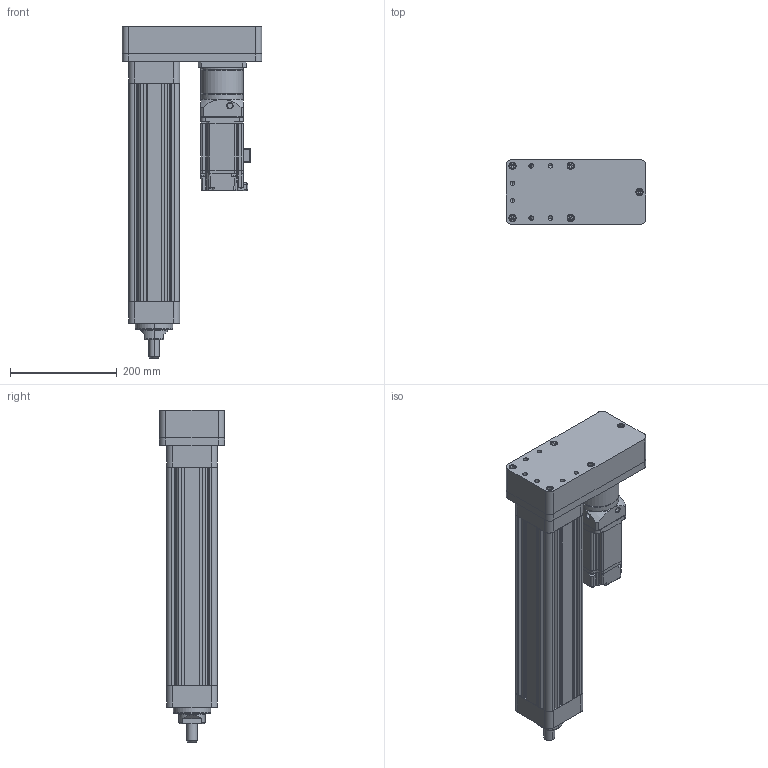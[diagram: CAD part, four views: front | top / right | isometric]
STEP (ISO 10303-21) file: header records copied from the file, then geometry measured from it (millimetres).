
FILE_DESCRIPTION (( 'STEP AP203' ), '1' );
FILE_NAME ('JXE046 TEB80-C05-S250-D-C.STEP', '2020-02-18T04:59:02', ( 'User' ), ( 'china' ), 'SwSTEP 2.0', 'SolidWorks 2012', '' );
FILE_SCHEMA (( 'CONFIG_CONTROL_DESIGN' ));
Length unit declared in the file: millimetre
Products named in the file (11): JXE046 TEB80-C05-S250-D-C; FRAME_F807ES; 80ZDF7-750T3; cy80-23假蚾蹟隊; PART-8009; 綴傷裔; 活塞杆螺柱; GZE066-09 蛌諉啣; GZE066-03  詰芠; GZE066-02 ヶ傷裔; GZE066-01 活塞杆
Assembly tree (14 placements, depth 2):
  JXE046 TEB80-C05-S250-D-C
    GZE066-01 活塞杆
    GZE066-02 ヶ傷裔
    GZE066-03  詰芠
    GZE066-09 蛌諉啣
    活塞杆螺柱  x2
    綴傷裔
    PART-8009
    cy80-23假蚾蹟隊  x4
    80ZDF7-750T3
    FRAME_F807ES
Bounding box: 262 x 122 x 622.5 mm (x, y, z)
Volume: 4581917.3 mm3; surface area: 1086685.9 mm2
Topology: 25 solids, 25 shells, 1633 faces, 4227 edges, 2682 vertices
Faces by surface type: plane 842, cylinder 510, cone 147, bspline 104, torus 26, sphere 4
Entity records: 56211 total; most frequent: CARTESIAN_POINT 18384, ORIENTED_EDGE 7966, DIRECTION 7002, EDGE_CURVE 3983, VERTEX_POINT 2561, AXIS2_PLACEMENT_3D 2351, LINE 2300, VECTOR 2300
